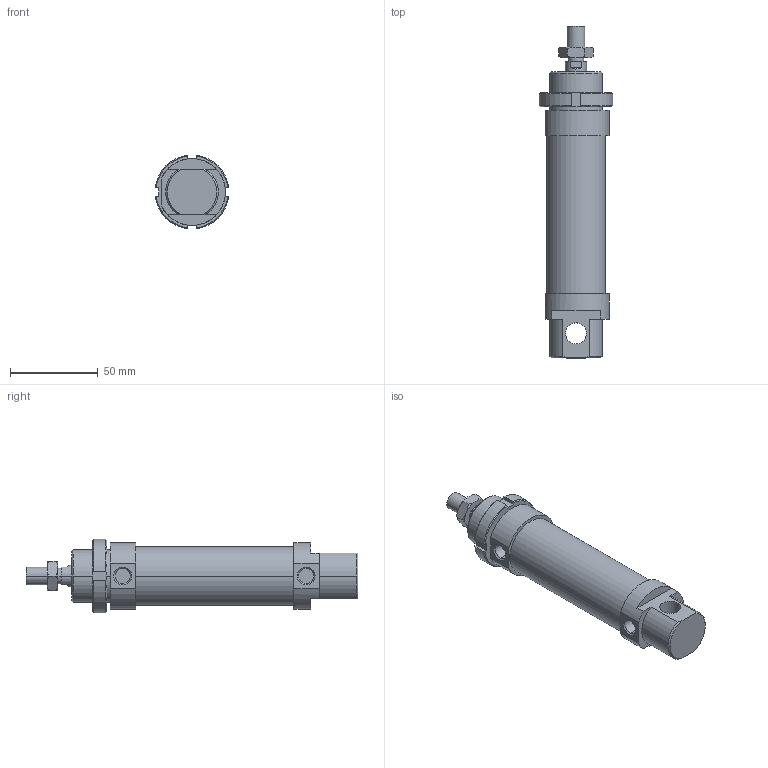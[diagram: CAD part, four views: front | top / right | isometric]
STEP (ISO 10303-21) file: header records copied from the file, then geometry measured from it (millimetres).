
FILE_DESCRIPTION((''),'2;1');
FILE_NAME('I:\DOC-EDP\Lib-3d\1200\CILINDRI\1280\1280_32_0050.stp','2003-04-07T19:04:13',('maffial1'),(''),'Autodesk Inventor (R) 6.0','Autodesk Inventor (R) 6.0','');
FILE_SCHEMA(('AUTOMOTIVE_DESIGN { 1 0 10303 214 1 1 1 1 }'));
Length unit declared in the file: millimetre
Products named in the file (5): 1280_32_0050; S1280_32_50; 1200_32_05; 1200_32_06; C1280_32_50
Assembly tree (4 placements, depth 2):
  1280_32_0050
    S1280_32_50
    1200_32_05
    1200_32_06
    C1280_32_50
Bounding box: 41.7 x 189 x 41.7 mm (x, y, z)
Volume: 146026.9 mm3; surface area: 32544.7 mm2
Topology: 4 solids, 4 shells, 122 faces, 286 edges, 180 vertices
Faces by surface type: plane 44, cone 32, cylinder 26, bspline 20
Entity records: 3831 total; most frequent: CARTESIAN_POINT 997, DIRECTION 582, ORIENTED_EDGE 572, EDGE_CURVE 286, AXIS2_PLACEMENT_3D 229, VERTEX_POINT 180, EDGE_LOOP 136, VECTOR 124
